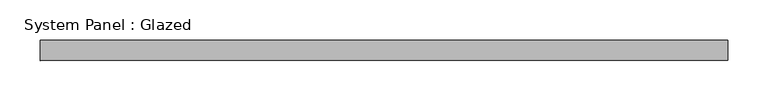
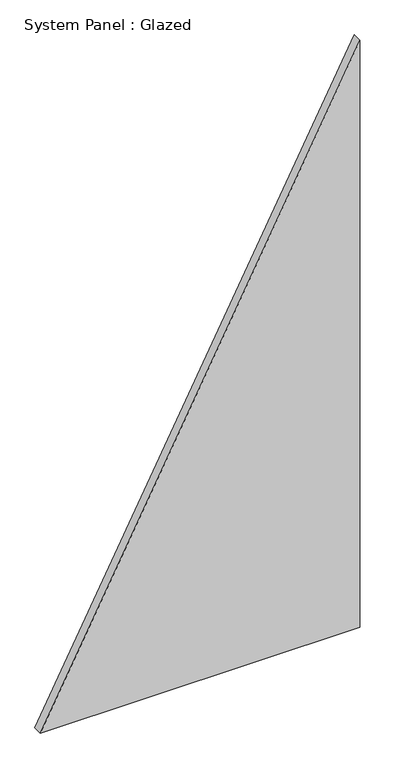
"""IFC4 building model written with IfcOpenShell, lengths in millimetres: plate geometry, System Panel : Glazed."""

from ifc_helpers import new_model, si_unit, frame, origin, place, context, project, spatial, polyline, outline, extrude, source, transform, mapped, element, save


def system_panel_glazed_5ca7e2f6(model_context):
    return source(origin(), model_context, "Body", "SweptSolid", [
        extrude(outline(polyline([(0.0, -427.6180748), (0.0, 427.6180748), (1660.9446084, 427.6180748), (0.0, -427.6180748)])), frame((0.0, -12.5, 0.0), z_axis=(0.0, 1.0, 0.0), x_axis=(0.0, 0.0, 1.0)), (0.0, 0.0, 1.0), 25.0),
    ])


if __name__ == "__main__":
    model = new_model("IFC4")
    model_context = context("Model", 3, world=origin())
    ifc_project = project(units=[si_unit("LENGTHUNIT", "METRE", prefix="MILLI")], contexts=[model_context])
    site = spatial("IfcSite", under=ifc_project)
    building = spatial("IfcBuilding", under=site)
    placement = place(None, origin())
    system_panel_glazed_shape = system_panel_glazed_5ca7e2f6(model_context)
    element("IfcPlate", 1, ObjectType="System Panel : Glazed", at=placement, inside=building, context=model_context, shape_type="MappedRepresentation", body=[
        mapped(system_panel_glazed_shape, transform((0.0, 0.0, 0.0), x_axis=(1.0, 0.0, 0.0), y_axis=(0.0, 1.0, 0.0), z_axis=(0.0, 0.0, 1.0))),
    ])
    save(model, "model.ifc")
